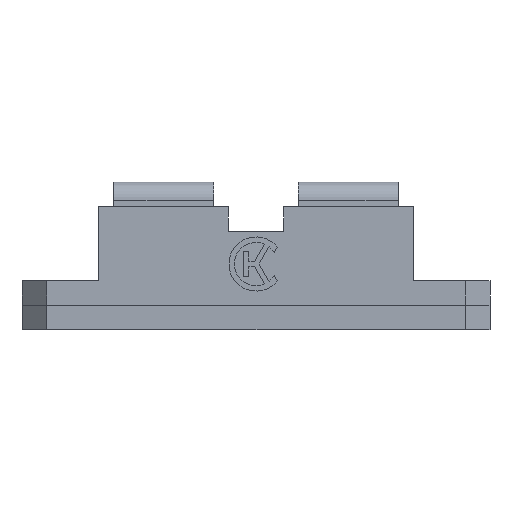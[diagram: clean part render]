
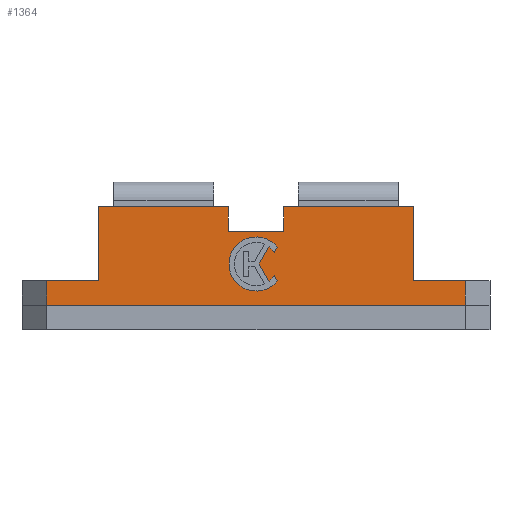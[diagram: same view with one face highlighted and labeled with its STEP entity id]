
A CAD part, front view. The second image highlights one B-rep face of the part: STEP entity #1364.
In plain terms, the highlighted planar face has unit normal (0, -1, 0) as drawn and (-1, 0, 0) by its records, which use the part's own axes.
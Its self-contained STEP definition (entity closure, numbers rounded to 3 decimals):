
#1364=ADVANCED_FACE('',(#2664,#2666),#2668,.T.);
#2664=FACE_BOUND('',#2665,.T.);
#2665=EDGE_LOOP('',(#3563,#3564,#3565,#3566,#3567,#3568,#3569,#3570,#3571,#3572,
#3573,#3574));
#2666=FACE_BOUND('',#2667,.T.);
#2667=EDGE_LOOP('',(#3575,#3576,#3577,#3578,#3579,#3580,#3581));
#2668=PLANE('',#2669);
#2669=AXIS2_PLACEMENT_3D('',#2670,#2671,#2672);
#2670=CARTESIAN_POINT('',(-12.5,17.,0.));
#2671=DIRECTION('',(-1.,0.,0.));
#2672=DIRECTION('',(0.,-1.,0.));
#3563=ORIENTED_EDGE('',*,*,#4147,.T.);
#3564=ORIENTED_EDGE('',*,*,#4148,.F.);
#3565=ORIENTED_EDGE('',*,*,#4149,.T.);
#3566=ORIENTED_EDGE('',*,*,#4150,.T.);
#3567=ORIENTED_EDGE('',*,*,#4151,.F.);
#3568=ORIENTED_EDGE('',*,*,#4152,.T.);
#3569=ORIENTED_EDGE('',*,*,#4153,.T.);
#3570=ORIENTED_EDGE('',*,*,#4154,.T.);
#3571=ORIENTED_EDGE('',*,*,#4155,.T.);
#3572=ORIENTED_EDGE('',*,*,#4156,.F.);
#3573=ORIENTED_EDGE('',*,*,#4157,.T.);
#3574=ORIENTED_EDGE('',*,*,#4158,.T.);
#3575=ORIENTED_EDGE('',*,*,#4146,.T.);
#3576=ORIENTED_EDGE('',*,*,#4144,.T.);
#3577=ORIENTED_EDGE('',*,*,#4142,.T.);
#3578=ORIENTED_EDGE('',*,*,#4140,.T.);
#3579=ORIENTED_EDGE('',*,*,#4138,.T.);
#3580=ORIENTED_EDGE('',*,*,#4136,.T.);
#3581=ORIENTED_EDGE('',*,*,#4133,.T.);
#4133=EDGE_CURVE('',#4671,#4672,#4673,.F.);
#4136=EDGE_CURVE('',#4676,#4671,#4677,.F.);
#4138=EDGE_CURVE('',#4679,#4676,#4680,.F.);
#4140=EDGE_CURVE('',#4682,#4679,#4683,.F.);
#4142=EDGE_CURVE('',#4685,#4682,#4686,.F.);
#4144=EDGE_CURVE('',#4688,#4685,#4689,.F.);
#4146=EDGE_CURVE('',#4672,#4688,#4691,.F.);
#4147=EDGE_CURVE('',#4692,#4693,#4694,.F.);
#4148=EDGE_CURVE('',#4695,#4693,#4696,.T.);
#4149=EDGE_CURVE('',#4695,#4697,#4698,.F.);
#4150=EDGE_CURVE('',#4697,#4699,#4700,.T.);
#4151=EDGE_CURVE('',#4701,#4699,#4702,.T.);
#4152=EDGE_CURVE('',#4701,#4703,#4704,.T.);
#4153=EDGE_CURVE('',#4703,#4705,#4706,.T.);
#4154=EDGE_CURVE('',#4705,#4707,#4708,.T.);
#4155=EDGE_CURVE('',#4707,#4709,#4710,.F.);
#4156=EDGE_CURVE('',#4711,#4709,#4712,.T.);
#4157=EDGE_CURVE('',#4711,#4713,#4714,.F.);
#4158=EDGE_CURVE('',#4713,#4692,#4715,.T.);
#4671=VERTEX_POINT('',#6823);
#4672=VERTEX_POINT('',#6824);
#4673=CIRCLE('',#6825,1.757);
#4676=VERTEX_POINT('',#6835);
#4677=LINE('',#6836,#6837);
#4679=VERTEX_POINT('',#6842);
#4680=CIRCLE('',#6843,2.196);
#4682=VERTEX_POINT('',#6850);
#4683=LINE('',#6851,#6852);
#4685=VERTEX_POINT('',#6857);
#4686=CIRCLE('',#6858,1.757);
#4688=VERTEX_POINT('',#6865);
#4689=LINE('',#6866,#6867);
#4691=LINE('',#6872,#6873);
#4692=VERTEX_POINT('',#6875);
#4693=VERTEX_POINT('',#6876);
#4694=LINE('',#6877,#6878);
#4695=VERTEX_POINT('',#6880);
#4696=LINE('',#6881,#6882);
#4697=VERTEX_POINT('',#6884);
#4698=LINE('',#6885,#6886);
#4699=VERTEX_POINT('',#6888);
#4700=LINE('',#6889,#6890);
#4701=VERTEX_POINT('',#6892);
#4702=LINE('',#6893,#6894);
#4703=VERTEX_POINT('',#6896);
#4704=LINE('',#6897,#6898);
#4705=VERTEX_POINT('',#6900);
#4706=LINE('',#6901,#6902);
#4707=VERTEX_POINT('',#6904);
#4708=LINE('',#6905,#6906);
#4709=VERTEX_POINT('',#6908);
#4710=LINE('',#6909,#6910);
#4711=VERTEX_POINT('',#6912);
#4712=LINE('',#6913,#6914);
#4713=VERTEX_POINT('',#6916);
#4714=LINE('',#6917,#6918);
#4715=LINE('',#6920,#6921);
#6823=CARTESIAN_POINT('',(-12.5,-1.478,4.299));
#6824=CARTESIAN_POINT('',(-12.5,-1.062,4.749));
#6825=AXIS2_PLACEMENT_3D('',#6826,#6827,#6828);
#6826=CARTESIAN_POINT('',(-12.5,0.,3.349));
#6827=DIRECTION('',(1.,0.,0.));
#6828=DIRECTION('',(0.,-0.604,0.797));
#6835=CARTESIAN_POINT('',(-12.5,-1.719,4.716));
#6836=CARTESIAN_POINT('',(-12.5,-1.478,4.299));
#6837=VECTOR('',#6838,1.);
#6838=DIRECTION('',(0.,-0.5,0.866));
#6842=CARTESIAN_POINT('',(-12.5,-1.719,1.982));
#6843=AXIS2_PLACEMENT_3D('',#6844,#6845,#6846);
#6844=CARTESIAN_POINT('',(-12.5,0.,3.349));
#6845=DIRECTION('',(-1.,0.,0.));
#6846=DIRECTION('',(0.,-0.783,0.622));
#6850=CARTESIAN_POINT('',(-12.5,-1.478,2.399));
#6851=CARTESIAN_POINT('',(-12.5,-1.719,1.982));
#6852=VECTOR('',#6853,1.);
#6853=DIRECTION('',(0.,0.5,0.866));
#6857=CARTESIAN_POINT('',(-12.5,-1.062,1.949));
#6858=AXIS2_PLACEMENT_3D('',#6859,#6860,#6861);
#6859=CARTESIAN_POINT('',(-12.5,0.,3.349));
#6860=DIRECTION('',(1.,0.,0.));
#6861=DIRECTION('',(0.,-0.841,-0.541));
#6865=CARTESIAN_POINT('',(-12.5,-0.254,3.349));
#6866=CARTESIAN_POINT('',(-12.5,-1.062,1.949));
#6867=VECTOR('',#6868,1.);
#6868=DIRECTION('',(0.,0.5,0.866));
#6872=CARTESIAN_POINT('',(-12.5,-0.254,3.349));
#6873=VECTOR('',#6874,1.);
#6874=DIRECTION('',(0.,-0.5,0.866));
#6875=CARTESIAN_POINT('',(-12.5,2.25,6.));
#6876=CARTESIAN_POINT('',(-12.5,2.25,8.));
#6877=CARTESIAN_POINT('',(-12.5,2.25,8.));
#6878=VECTOR('',#6879,1.);
#6879=DIRECTION('',(0.,0.,-1.));
#6880=CARTESIAN_POINT('',(-12.5,12.75,8.));
#6881=CARTESIAN_POINT('',(-12.5,12.75,8.));
#6882=VECTOR('',#6883,1.);
#6883=DIRECTION('',(0.,-1.,0.));
#6884=CARTESIAN_POINT('',(-12.5,12.75,2.));
#6885=CARTESIAN_POINT('',(-12.5,12.75,2.));
#6886=VECTOR('',#6887,1.);
#6887=DIRECTION('',(0.,0.,1.));
#6888=CARTESIAN_POINT('',(-12.5,17.,2.));
#6889=CARTESIAN_POINT('',(-12.5,12.75,2.));
#6890=VECTOR('',#6891,1.);
#6891=DIRECTION('',(0.,1.,0.));
#6892=CARTESIAN_POINT('',(-12.5,17.,0.));
#6893=CARTESIAN_POINT('',(-12.5,17.,0.));
#6894=VECTOR('',#6895,1.);
#6895=DIRECTION('',(0.,0.,1.));
#6896=CARTESIAN_POINT('',(-12.5,-17.,0.));
#6897=CARTESIAN_POINT('',(-12.5,17.,0.));
#6898=VECTOR('',#6899,1.);
#6899=DIRECTION('',(0.,-1.,0.));
#6900=CARTESIAN_POINT('',(-12.5,-17.,2.));
#6901=CARTESIAN_POINT('',(-12.5,-17.,0.));
#6902=VECTOR('',#6903,1.);
#6903=DIRECTION('',(0.,0.,1.));
#6904=CARTESIAN_POINT('',(-12.5,-12.75,2.));
#6905=CARTESIAN_POINT('',(-12.5,-17.,2.));
#6906=VECTOR('',#6907,1.);
#6907=DIRECTION('',(0.,1.,0.));
#6908=CARTESIAN_POINT('',(-12.5,-12.75,8.));
#6909=CARTESIAN_POINT('',(-12.5,-12.75,8.));
#6910=VECTOR('',#6911,1.);
#6911=DIRECTION('',(0.,0.,-1.));
#6912=CARTESIAN_POINT('',(-12.5,-2.25,8.));
#6913=CARTESIAN_POINT('',(-12.5,-2.25,8.));
#6914=VECTOR('',#6915,1.);
#6915=DIRECTION('',(0.,-1.,0.));
#6916=CARTESIAN_POINT('',(-12.5,-2.25,6.));
#6917=CARTESIAN_POINT('',(-12.5,-2.25,6.));
#6918=VECTOR('',#6919,1.);
#6919=DIRECTION('',(0.,0.,1.));
#6920=CARTESIAN_POINT('',(-12.5,-2.25,6.));
#6921=VECTOR('',#6922,1.);
#6922=DIRECTION('',(0.,1.,0.));
